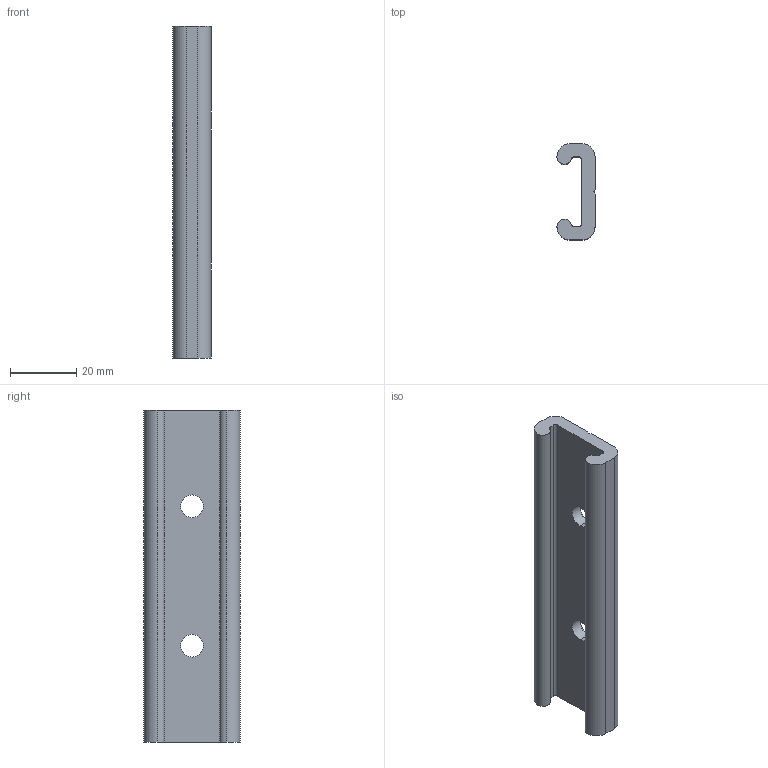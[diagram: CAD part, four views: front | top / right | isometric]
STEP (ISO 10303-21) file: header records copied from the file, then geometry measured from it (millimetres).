
FILE_DESCRIPTION (( 'STEP AP214' ), '1' );
FILE_NAME ('FGRC 100.step', '2017-04-05T07:39:10', ( '' ), ( '' ), 'SwSTEP 2.0', 'SolidWorks 2015', '' );
FILE_SCHEMA (( 'AUTOMOTIVE_DESIGN' ));
Length unit declared in the file: millimetre
Products named in the file (1): FGRC 100
Bounding box: 11.5 x 29 x 100 mm (x, y, z)
Volume: 17492 mm3; surface area: 9657 mm2
Topology: 1 solids, 1 shells, 33 faces, 91 edges, 58 vertices
Faces by surface type: plane 15, cylinder 14, cone 4
Entity records: 1139 total; most frequent: CARTESIAN_POINT 207, DIRECTION 183, ORIENTED_EDGE 182, EDGE_CURVE 91, AXIS2_PLACEMENT_3D 66, VERTEX_POINT 58, VECTOR 51, LINE 51
